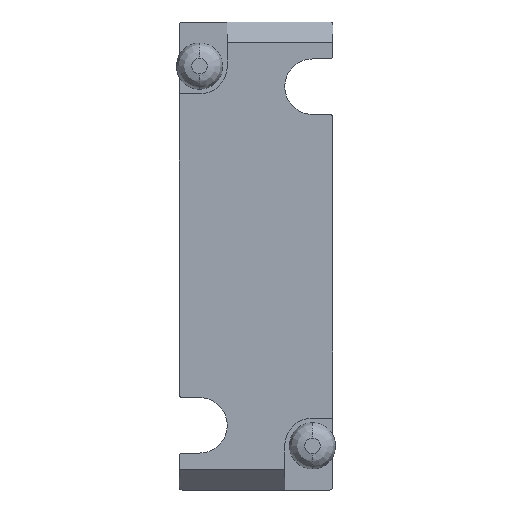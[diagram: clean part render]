
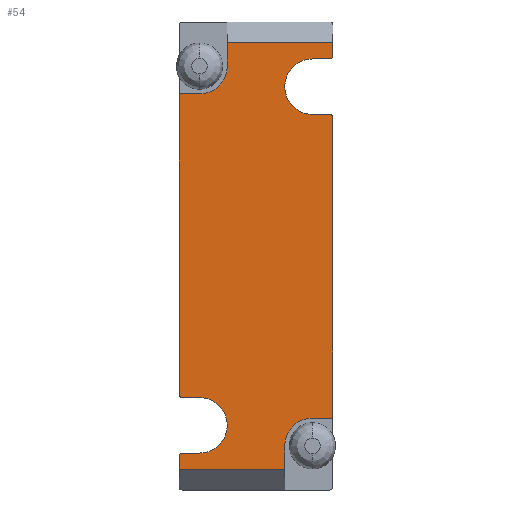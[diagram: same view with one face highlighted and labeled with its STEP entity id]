
A CAD part, left-side view. The second image highlights one B-rep face of the part: STEP entity #54.
In plain terms, the highlighted planar face has unit normal (-1, 0, 0).
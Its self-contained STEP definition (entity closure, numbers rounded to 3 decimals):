
#54=ADVANCED_FACE('',(#225),#224,.F.);
#224=PLANE('',#597);
#225=FACE_OUTER_BOUND('',#598,.T.);
#594=CARTESIAN_POINT('',(-5.,-16.5,47.76));
#595=DIRECTION('',(1.,0.,0.));
#596=DIRECTION('',(0.,0.,-1.));
#597=AXIS2_PLACEMENT_3D('',#594,#595,#596);
#598=EDGE_LOOP('',(#913,#914,#915,#916,#917,#918,#919,#920,#921,#922,#923,#924,#925,#926,#927,#928,#929,#930,#931,#932,#933,#934));
#913=ORIENTED_EDGE('',*,*,#1126,.T.);
#914=ORIENTED_EDGE('',*,*,#1127,.T.);
#915=ORIENTED_EDGE('',*,*,#1100,.T.);
#916=ORIENTED_EDGE('',*,*,#1103,.T.);
#917=ORIENTED_EDGE('',*,*,#1099,.T.);
#918=ORIENTED_EDGE('',*,*,#1128,.T.);
#919=ORIENTED_EDGE('',*,*,#1129,.T.);
#920=ORIENTED_EDGE('',*,*,#1130,.T.);
#921=ORIENTED_EDGE('',*,*,#1068,.F.);
#922=ORIENTED_EDGE('',*,*,#1062,.T.);
#923=ORIENTED_EDGE('',*,*,#1066,.T.);
#924=ORIENTED_EDGE('',*,*,#1109,.T.);
#925=ORIENTED_EDGE('',*,*,#1131,.T.);
#926=ORIENTED_EDGE('',*,*,#1095,.F.);
#927=ORIENTED_EDGE('',*,*,#1094,.T.);
#928=ORIENTED_EDGE('',*,*,#1090,.F.);
#929=ORIENTED_EDGE('',*,*,#1132,.T.);
#930=ORIENTED_EDGE('',*,*,#1133,.T.);
#931=ORIENTED_EDGE('',*,*,#1134,.T.);
#932=ORIENTED_EDGE('',*,*,#1135,.F.);
#933=ORIENTED_EDGE('',*,*,#1136,.T.);
#934=ORIENTED_EDGE('',*,*,#1137,.T.);
#1062=EDGE_CURVE('',#1191,#1184,#1192,.T.);
#1066=EDGE_CURVE('',#1184,#1211,#1218,.T.);
#1068=EDGE_CURVE('',#1191,#1231,#1232,.T.);
#1090=EDGE_CURVE('',#1384,#1385,#1386,.T.);
#1094=EDGE_CURVE('',#1404,#1385,#1411,.T.);
#1095=EDGE_CURVE('',#1404,#1417,#1418,.T.);
#1099=EDGE_CURVE('',#1430,#1437,#1444,.T.);
#1100=EDGE_CURVE('',#1450,#1451,#1452,.T.);
#1103=EDGE_CURVE('',#1451,#1430,#1470,.T.);
#1109=EDGE_CURVE('',#1211,#1504,#1511,.T.);
#1126=EDGE_CURVE('',#1627,#1628,#1629,.T.);
#1127=EDGE_CURVE('',#1628,#1450,#1635,.T.);
#1128=EDGE_CURVE('',#1437,#1641,#1642,.T.);
#1129=EDGE_CURVE('',#1641,#1648,#1649,.T.);
#1130=EDGE_CURVE('',#1648,#1231,#1655,.T.);
#1131=EDGE_CURVE('',#1504,#1417,#1661,.T.);
#1132=EDGE_CURVE('',#1384,#1667,#1668,.T.);
#1133=EDGE_CURVE('',#1667,#1674,#1675,.T.);
#1134=EDGE_CURVE('',#1674,#1681,#1682,.T.);
#1135=EDGE_CURVE('',#1688,#1681,#1689,.T.);
#1136=EDGE_CURVE('',#1688,#1695,#1696,.T.);
#1137=EDGE_CURVE('',#1695,#1627,#1702,.T.);
#1184=VERTEX_POINT('',#1951);
#1191=VERTEX_POINT('',#1955);
#1192=LINE('',#1956,#1957);
#1211=VERTEX_POINT('',#1967);
#1218=CIRCLE('',#1974,0.3);
#1231=VERTEX_POINT('',#1980);
#1232=CIRCLE('',#1984,2.7);
#1384=VERTEX_POINT('',#2078);
#1385=VERTEX_POINT('',#2079);
#1386=LINE('',#2080,#2081);
#1404=VERTEX_POINT('',#2089);
#1411=CIRCLE('',#2096,2.7);
#1417=VERTEX_POINT('',#2097);
#1418=LINE('',#2098,#2099);
#1430=VERTEX_POINT('',#2104);
#1437=VERTEX_POINT('',#2108);
#1444=LINE('',#2112,#2113);
#1450=VERTEX_POINT('',#2115);
#1451=VERTEX_POINT('',#2116);
#1452=LINE('',#2117,#2118);
#1470=CIRCLE('',#2129,2.7);
#1504=VERTEX_POINT('',#2147);
#1511=LINE('',#2151,#2152);
#1627=VERTEX_POINT('',#2223);
#1628=VERTEX_POINT('',#2224);
#1629=LINE('',#2225,#2226);
#1635=LINE('',#2228,#2229);
#1641=VERTEX_POINT('',#2231);
#1642=LINE('',#2232,#2233);
#1648=VERTEX_POINT('',#2235);
#1649=CIRCLE('',#2239,0.3);
#1655=LINE('',#2240,#2241);
#1661=LINE('',#2243,#2244);
#1667=VERTEX_POINT('',#2246);
#1668=LINE('',#2247,#2248);
#1674=VERTEX_POINT('',#2250);
#1675=CIRCLE('',#2254,0.3);
#1681=VERTEX_POINT('',#2255);
#1682=LINE('',#2256,#2257);
#1688=VERTEX_POINT('',#2259);
#1689=CIRCLE('',#2263,2.7);
#1695=VERTEX_POINT('',#2264);
#1696=LINE('',#2265,#2266);
#1702=CIRCLE('',#2271,0.3);
#1951=CARTESIAN_POINT('',(-5.,-14.7,42.));
#1955=CARTESIAN_POINT('',(-5.,-13.,42.));
#1956=CARTESIAN_POINT('',(-5.,-13.,42.));
#1957=VECTOR('',#1958,1.7);
#1958=DIRECTION('',(0.,-1.,0.));
#1967=CARTESIAN_POINT('',(-5.,-15.,42.3));
#1971=CARTESIAN_POINT('',(-5.,-14.7,42.3));
#1972=DIRECTION('',(-1.,0.,0.));
#1973=DIRECTION('',(0.,0.,1.));
#1974=AXIS2_PLACEMENT_3D('',#1971,#1972,#1973);
#1980=CARTESIAN_POINT('',(-5.,-13.,36.6));
#1981=CARTESIAN_POINT('',(-5.,-13.,39.3));
#1982=DIRECTION('',(-1.,0.,0.));
#1983=DIRECTION('',(0.,0.,1.));
#1984=AXIS2_PLACEMENT_3D('',#1981,#1982,#1983);
#2078=CARTESIAN_POINT('',(-5.,0.,38.6));
#2079=CARTESIAN_POINT('',(-5.,-2.,38.6));
#2080=CARTESIAN_POINT('',(-5.,0.,38.6));
#2081=VECTOR('',#2082,2.);
#2082=DIRECTION('',(0.,-1.,0.));
#2089=CARTESIAN_POINT('',(-5.,-4.7,41.3));
#2093=CARTESIAN_POINT('',(-5.,-2.,41.3));
#2094=DIRECTION('',(1.,0.,0.));
#2095=DIRECTION('',(0.,0.,1.));
#2096=AXIS2_PLACEMENT_3D('',#2093,#2094,#2095);
#2097=CARTESIAN_POINT('',(-5.,-4.7,43.6));
#2098=CARTESIAN_POINT('',(-5.,-4.7,41.3));
#2099=VECTOR('',#2100,2.3);
#2100=DIRECTION('',(0.,0.,1.));
#2104=CARTESIAN_POINT('',(-5.,-13.,7.));
#2108=CARTESIAN_POINT('',(-5.,-15.,7.));
#2112=CARTESIAN_POINT('',(-5.,-13.,7.));
#2113=VECTOR('',#2114,2.);
#2114=DIRECTION('',(0.,-1.,0.));
#2115=CARTESIAN_POINT('',(-5.,-10.3,2.));
#2116=CARTESIAN_POINT('',(-5.,-10.3,4.3));
#2117=CARTESIAN_POINT('',(-5.,-10.3,2.));
#2118=VECTOR('',#2119,2.3);
#2119=DIRECTION('',(0.,0.,1.));
#2126=CARTESIAN_POINT('',(-5.,-13.,4.3));
#2127=DIRECTION('',(1.,0.,0.));
#2128=DIRECTION('',(0.,0.,1.));
#2129=AXIS2_PLACEMENT_3D('',#2126,#2127,#2128);
#2147=CARTESIAN_POINT('',(-5.,-15.,43.6));
#2151=CARTESIAN_POINT('',(-5.,-15.,42.3));
#2152=VECTOR('',#2153,1.3);
#2153=DIRECTION('',(0.,0.,1.));
#2223=CARTESIAN_POINT('',(-5.,0.,3.3));
#2224=CARTESIAN_POINT('',(-5.,0.,2.));
#2225=CARTESIAN_POINT('',(-5.,0.,3.3));
#2226=VECTOR('',#2227,1.3);
#2227=DIRECTION('',(0.,0.,-1.));
#2228=CARTESIAN_POINT('',(-5.,0.,2.));
#2229=VECTOR('',#2230,10.3);
#2230=DIRECTION('',(0.,-1.,0.));
#2231=CARTESIAN_POINT('',(-5.,-15.,36.3));
#2232=CARTESIAN_POINT('',(-5.,-15.,7.));
#2233=VECTOR('',#2234,29.3);
#2234=DIRECTION('',(0.,0.,1.));
#2235=CARTESIAN_POINT('',(-5.,-14.7,36.6));
#2236=CARTESIAN_POINT('',(-5.,-14.7,36.3));
#2237=DIRECTION('',(-1.,0.,0.));
#2238=DIRECTION('',(0.,0.,1.));
#2239=AXIS2_PLACEMENT_3D('',#2236,#2237,#2238);
#2240=CARTESIAN_POINT('',(-5.,-14.7,36.6));
#2241=VECTOR('',#2242,1.7);
#2242=DIRECTION('',(0.,1.,0.));
#2243=CARTESIAN_POINT('',(-5.,-15.,43.6));
#2244=VECTOR('',#2245,10.3);
#2245=DIRECTION('',(0.,1.,0.));
#2246=CARTESIAN_POINT('',(-5.,0.,9.3));
#2247=CARTESIAN_POINT('',(-5.,0.,38.6));
#2248=VECTOR('',#2249,29.3);
#2249=DIRECTION('',(0.,0.,-1.));
#2250=CARTESIAN_POINT('',(-5.,-0.3,9.));
#2251=CARTESIAN_POINT('',(-5.,-0.3,9.3));
#2252=DIRECTION('',(-1.,0.,0.));
#2253=DIRECTION('',(0.,0.,1.));
#2254=AXIS2_PLACEMENT_3D('',#2251,#2252,#2253);
#2255=CARTESIAN_POINT('',(-5.,-2.,9.));
#2256=CARTESIAN_POINT('',(-5.,-0.3,9.));
#2257=VECTOR('',#2258,1.7);
#2258=DIRECTION('',(0.,-1.,0.));
#2259=CARTESIAN_POINT('',(-5.,-2.,3.6));
#2260=CARTESIAN_POINT('',(-5.,-2.,6.3));
#2261=DIRECTION('',(-1.,0.,0.));
#2262=DIRECTION('',(0.,0.,1.));
#2263=AXIS2_PLACEMENT_3D('',#2260,#2261,#2262);
#2264=CARTESIAN_POINT('',(-5.,-0.3,3.6));
#2265=CARTESIAN_POINT('',(-5.,-2.,3.6));
#2266=VECTOR('',#2267,1.7);
#2267=DIRECTION('',(0.,1.,0.));
#2268=CARTESIAN_POINT('',(-5.,-0.3,3.3));
#2269=DIRECTION('',(-1.,0.,0.));
#2270=DIRECTION('',(0.,0.,1.));
#2271=AXIS2_PLACEMENT_3D('',#2268,#2269,#2270);
